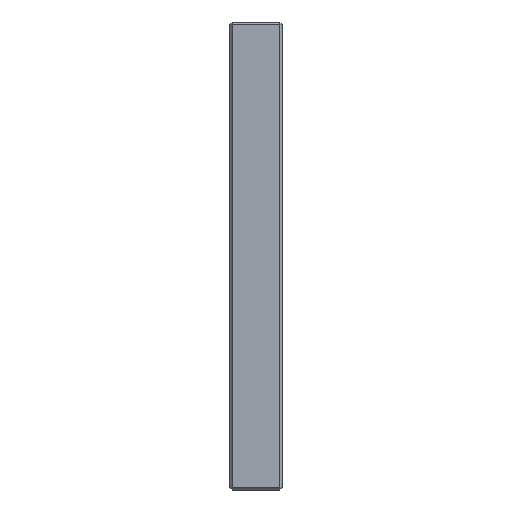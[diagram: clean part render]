
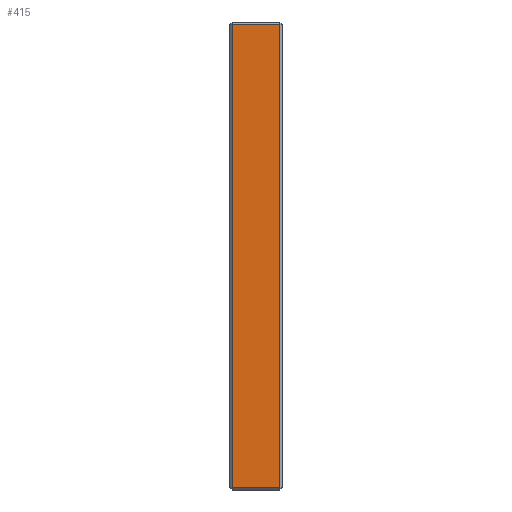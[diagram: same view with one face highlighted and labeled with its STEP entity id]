
A CAD part, left-side view. The second image highlights one B-rep face of the part: STEP entity #415.
In plain terms, the highlighted planar face has unit normal (-1, 0, 0).
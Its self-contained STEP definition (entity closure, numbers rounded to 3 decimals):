
#35 = VERTEX_POINT ( 'NONE', #1376 ) ;
#165 = ORIENTED_EDGE ( 'NONE', *, *, #1165, .T. ) ;
#236 = CARTESIAN_POINT ( 'NONE',  ( -98., 21., 97. ) ) ;
#315 = EDGE_LOOP ( 'NONE', ( #1203, #165, #1641, #1379 ) ) ;
#330 = DIRECTION ( 'NONE',  ( 0., -1., 0. ) ) ;
#415 = ADVANCED_FACE ( 'NONE', ( #1392 ), #1614, .F. ) ;
#527 = CARTESIAN_POINT ( 'NONE',  ( -98., 22., -97. ) ) ;
#657 = CARTESIAN_POINT ( 'NONE',  ( -98., 21., -98. ) ) ;
#791 = DIRECTION ( 'NONE',  ( 0., 0., -1. ) ) ;
#824 = DIRECTION ( 'NONE',  ( 0., 1., 0. ) ) ;
#879 = CARTESIAN_POINT ( 'NONE',  ( -98., 22., 97. ) ) ;
#957 = EDGE_CURVE ( 'NONE', #1721, #35, #2086, .T. ) ;
#1014 = CARTESIAN_POINT ( 'NONE',  ( -98., 1., 98. ) ) ;
#1020 = DIRECTION ( 'NONE',  ( 0., 0., 1. ) ) ;
#1064 = EDGE_CURVE ( 'NONE', #1584, #1721, #1826, .T. ) ;
#1068 = CARTESIAN_POINT ( 'NONE',  ( -98., 21., -97. ) ) ;
#1099 = EDGE_CURVE ( 'NONE', #1812, #1584, #1825, .T. ) ;
#1165 = EDGE_CURVE ( 'NONE', #35, #1812, #1252, .T. ) ;
#1203 = ORIENTED_EDGE ( 'NONE', *, *, #957, .T. ) ;
#1252 = LINE ( 'NONE', #1014, #1281 ) ;
#1281 = VECTOR ( 'NONE', #1020, 1000. ) ;
#1336 = VECTOR ( 'NONE', #824, 1000. ) ;
#1376 = CARTESIAN_POINT ( 'NONE',  ( -98., 1., -97. ) ) ;
#1379 = ORIENTED_EDGE ( 'NONE', *, *, #1064, .T. ) ;
#1392 = FACE_OUTER_BOUND ( 'NONE', #315, .T. ) ;
#1478 = CARTESIAN_POINT ( 'NONE',  ( -98., 22., 98. ) ) ;
#1584 = VERTEX_POINT ( 'NONE', #236 ) ;
#1589 = DIRECTION ( 'NONE',  ( 1., 0., 0. ) ) ;
#1594 = DIRECTION ( 'NONE',  ( 0., 0., -1. ) ) ;
#1614 = PLANE ( 'NONE',  #2275 ) ;
#1641 = ORIENTED_EDGE ( 'NONE', *, *, #1099, .T. ) ;
#1721 = VERTEX_POINT ( 'NONE', #1068 ) ;
#1794 = VECTOR ( 'NONE', #791, 1000. ) ;
#1812 = VERTEX_POINT ( 'NONE', #1905 ) ;
#1825 = LINE ( 'NONE', #879, #1336 ) ;
#1826 = LINE ( 'NONE', #657, #1794 ) ;
#1905 = CARTESIAN_POINT ( 'NONE',  ( -98., 1., 97. ) ) ;
#2028 = VECTOR ( 'NONE', #330, 1000. ) ;
#2086 = LINE ( 'NONE', #527, #2028 ) ;
#2275 = AXIS2_PLACEMENT_3D ( 'NONE', #1478, #1589, #1594 ) ;
